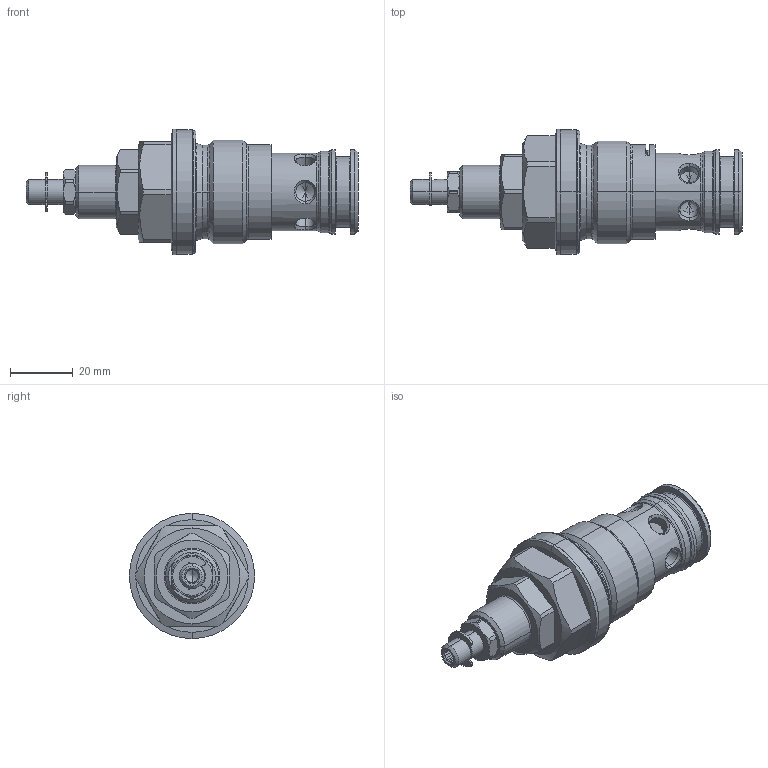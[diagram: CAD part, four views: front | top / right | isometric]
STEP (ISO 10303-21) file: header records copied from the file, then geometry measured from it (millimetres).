
FILE_DESCRIPTION (( 'STEP AP214' ), '1' );
FILE_NAME ('BVSPM33.STEP', '2014-01-22T12:38:35', ( '' ), ( '' ), 'SwSTEP 2.0', 'SolidWorks 2012', '' );
FILE_SCHEMA (( 'AUTOMOTIVE_DESIGN' ));
Length unit declared in the file: millimetre
Products named in the file (1): BVSPM33
Bounding box: 106.1 x 40 x 40 mm (x, y, z)
Volume: 57436.1 mm3; surface area: 16199.7 mm2
Topology: 9 solids, 9 shells, 312 faces, 735 edges, 436 vertices
Faces by surface type: cylinder 104, plane 91, cone 71, torus 34, bspline 12
Entity records: 13714 total; most frequent: CARTESIAN_POINT 3106, DIRECTION 1546, ORIENTED_EDGE 1430, EDGE_CURVE 715, AXIS2_PLACEMENT_3D 638, VERTEX_POINT 436, CIRCLE 337, EDGE_LOOP 331
